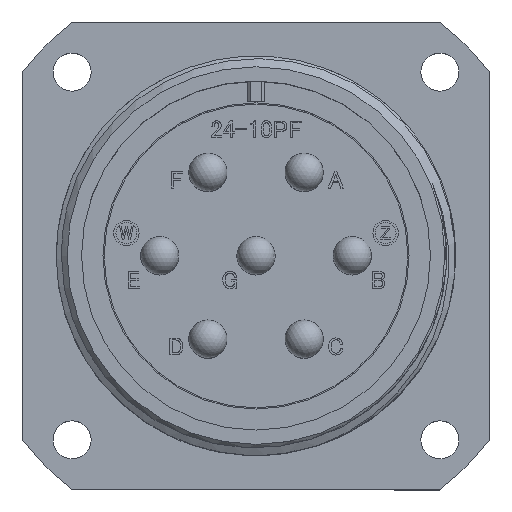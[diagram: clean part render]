
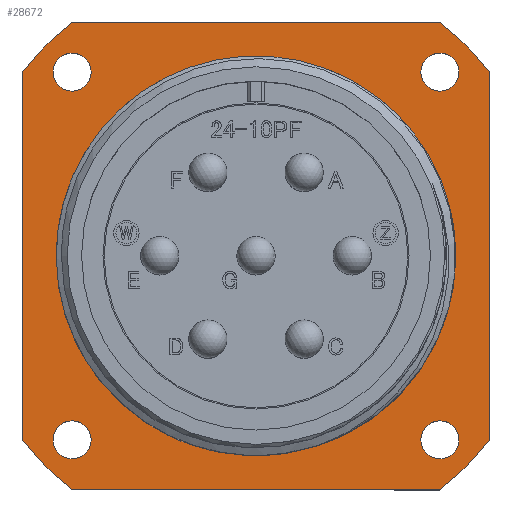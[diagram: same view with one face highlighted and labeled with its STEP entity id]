
A CAD part, top view. The second image highlights one B-rep face of the part: STEP entity #28672.
In plain terms, the highlighted planar face has unit normal (0, 0, 1).
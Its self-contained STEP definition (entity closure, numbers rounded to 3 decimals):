
#501 = AXIS2_PLACEMENT_3D ( 'NONE', #4973, #22908, #18802 ) ;
#945 = AXIS2_PLACEMENT_3D ( 'NONE', #14936, #10494, #1217 ) ;
#1217 = DIRECTION ( 'NONE',  ( 1., 0., 0. ) ) ;
#1477 = EDGE_LOOP ( 'NONE', ( #2790 ) ) ;
#1838 = CARTESIAN_POINT ( 'NONE',  ( 22.225, 22.225, -20.8 ) ) ;
#1998 = CARTESIAN_POINT ( 'NONE',  ( 0., 0., -20.8 ) ) ;
#2098 = CARTESIAN_POINT ( 'NONE',  ( 22.225, -17.439, -20.8 ) ) ;
#2406 = FACE_BOUND ( 'NONE', #27604, .T. ) ;
#2470 = AXIS2_PLACEMENT_3D ( 'NONE', #12964, #15224, #26199 ) ;
#2492 = CARTESIAN_POINT ( 'NONE',  ( 0., 0., -20.8 ) ) ;
#2790 = ORIENTED_EDGE ( 'NONE', *, *, #5545, .F. ) ;
#3105 = VERTEX_POINT ( 'NONE', #21657 ) ;
#3278 = ORIENTED_EDGE ( 'NONE', *, *, #22519, .F. ) ;
#3296 = CARTESIAN_POINT ( 'NONE',  ( 17.465, 17.465, -20.8 ) ) ;
#3869 = DIRECTION ( 'NONE',  ( 1., 0., 0. ) ) ;
#4258 = ORIENTED_EDGE ( 'NONE', *, *, #12403, .F. ) ;
#4461 = ORIENTED_EDGE ( 'NONE', *, *, #25772, .T. ) ;
#4508 = CIRCLE ( 'NONE', #501, 28.25 ) ;
#4973 = CARTESIAN_POINT ( 'NONE',  ( 0., 0., -20.8 ) ) ;
#5545 = EDGE_CURVE ( 'NONE', #28197, #28197, #13267, .T. ) ;
#5886 = CARTESIAN_POINT ( 'NONE',  ( 18.975, 0., -20.8 ) ) ;
#5981 = CIRCLE ( 'NONE', #945, 28.25 ) ;
#6036 = CIRCLE ( 'NONE', #21150, 1.805 ) ;
#6108 = CARTESIAN_POINT ( 'NONE',  ( 0., 0., -20.8 ) ) ;
#6411 = EDGE_LOOP ( 'NONE', ( #18152 ) ) ;
#6519 = AXIS2_PLACEMENT_3D ( 'NONE', #8699, #10878, #3869 ) ;
#6762 = DIRECTION ( 'NONE',  ( 0., 0., 1. ) ) ;
#6818 = VERTEX_POINT ( 'NONE', #11388 ) ;
#6912 = CARTESIAN_POINT ( 'NONE',  ( -17.439, -22.225, -20.8 ) ) ;
#6953 = DIRECTION ( 'NONE',  ( 1., 0., 0. ) ) ;
#7020 = EDGE_CURVE ( 'NONE', #14397, #14397, #21676, .T. ) ;
#7049 = DIRECTION ( 'NONE',  ( 1., 0., 0. ) ) ;
#7344 = DIRECTION ( 'NONE',  ( 0., 0., 1. ) ) ;
#7384 = FACE_OUTER_BOUND ( 'NONE', #28707, .T. ) ;
#7686 = AXIS2_PLACEMENT_3D ( 'NONE', #21227, #23488, #24090 ) ;
#7860 = CARTESIAN_POINT ( 'NONE',  ( 19.27, 17.465, -20.8 ) ) ;
#8086 = AXIS2_PLACEMENT_3D ( 'NONE', #2492, #7344, #7049 ) ;
#8091 = EDGE_CURVE ( 'NONE', #17479, #23479, #9301, .T. ) ;
#8213 = VECTOR ( 'NONE', #8643, 1000. ) ;
#8259 = AXIS2_PLACEMENT_3D ( 'NONE', #1998, #10899, #15524 ) ;
#8643 = DIRECTION ( 'NONE',  ( 0., 1., 0. ) ) ;
#8662 = CARTESIAN_POINT ( 'NONE',  ( -22.225, 22.225, -20.8 ) ) ;
#8699 = CARTESIAN_POINT ( 'NONE',  ( -17.465, -17.465, -20.8 ) ) ;
#9301 = LINE ( 'NONE', #8662, #10737 ) ;
#9821 = CARTESIAN_POINT ( 'NONE',  ( -22.225, -17.439, -20.8 ) ) ;
#9872 = LINE ( 'NONE', #9978, #15172 ) ;
#9978 = CARTESIAN_POINT ( 'NONE',  ( -22.225, 22.225, -20.8 ) ) ;
#10493 = CIRCLE ( 'NONE', #8086, 18.975 ) ;
#10494 = DIRECTION ( 'NONE',  ( 0., 0., -1. ) ) ;
#10539 = PLANE ( 'NONE',  #25272 ) ;
#10712 = AXIS2_PLACEMENT_3D ( 'NONE', #3296, #23817, #25915 ) ;
#10737 = VECTOR ( 'NONE', #26455, 1000. ) ;
#10878 = DIRECTION ( 'NONE',  ( 0., 0., 1. ) ) ;
#10899 = DIRECTION ( 'NONE',  ( 0., 0., -1. ) ) ;
#11008 = ORIENTED_EDGE ( 'NONE', *, *, #27703, .T. ) ;
#11052 = EDGE_CURVE ( 'NONE', #21656, #19423, #14495, .T. ) ;
#11388 = CARTESIAN_POINT ( 'NONE',  ( 22.225, 17.439, -20.8 ) ) ;
#11690 = VERTEX_POINT ( 'NONE', #9821 ) ;
#12157 = CIRCLE ( 'NONE', #2470, 28.25 ) ;
#12403 = EDGE_CURVE ( 'NONE', #26153, #19423, #5981, .T. ) ;
#12580 = EDGE_LOOP ( 'NONE', ( #3278 ) ) ;
#12964 = CARTESIAN_POINT ( 'NONE',  ( 0., 0., -20.8 ) ) ;
#13267 = CIRCLE ( 'NONE', #6519, 1.805 ) ;
#13283 = DIRECTION ( 'NONE',  ( 0., 0., 1. ) ) ;
#13448 = ORIENTED_EDGE ( 'NONE', *, *, #11052, .T. ) ;
#14397 = VERTEX_POINT ( 'NONE', #7860 ) ;
#14421 = FACE_BOUND ( 'NONE', #6411, .T. ) ;
#14495 = LINE ( 'NONE', #22182, #15206 ) ;
#14936 = CARTESIAN_POINT ( 'NONE',  ( 0., 0., -20.8 ) ) ;
#15172 = VECTOR ( 'NONE', #25375, 1000. ) ;
#15206 = VECTOR ( 'NONE', #24659, 1000. ) ;
#15224 = DIRECTION ( 'NONE',  ( 0., 0., -1. ) ) ;
#15241 = EDGE_CURVE ( 'NONE', #17479, #6818, #12157, .T. ) ;
#15524 = DIRECTION ( 'NONE',  ( 1., 0., 0. ) ) ;
#15638 = CARTESIAN_POINT ( 'NONE',  ( 17.439, -22.225, -20.8 ) ) ;
#15680 = ORIENTED_EDGE ( 'NONE', *, *, #28996, .F. ) ;
#15993 = VERTEX_POINT ( 'NONE', #25133 ) ;
#16148 = VERTEX_POINT ( 'NONE', #19393 ) ;
#16546 = FACE_BOUND ( 'NONE', #1477, .T. ) ;
#16876 = VERTEX_POINT ( 'NONE', #5886 ) ;
#17479 = VERTEX_POINT ( 'NONE', #19633 ) ;
#18152 = ORIENTED_EDGE ( 'NONE', *, *, #7020, .F. ) ;
#18322 = CIRCLE ( 'NONE', #8259, 28.25 ) ;
#18371 = ORIENTED_EDGE ( 'NONE', *, *, #20899, .F. ) ;
#18802 = DIRECTION ( 'NONE',  ( 1., 0., 0. ) ) ;
#19393 = CARTESIAN_POINT ( 'NONE',  ( 19.27, -17.465, -20.8 ) ) ;
#19423 = VERTEX_POINT ( 'NONE', #15638 ) ;
#19583 = ORIENTED_EDGE ( 'NONE', *, *, #15241, .F. ) ;
#19633 = CARTESIAN_POINT ( 'NONE',  ( 17.439, 22.225, -20.8 ) ) ;
#20451 = CARTESIAN_POINT ( 'NONE',  ( -17.465, 17.465, -20.8 ) ) ;
#20782 = FACE_BOUND ( 'NONE', #24338, .T. ) ;
#20899 = EDGE_CURVE ( 'NONE', #15993, #23479, #18322, .T. ) ;
#21150 = AXIS2_PLACEMENT_3D ( 'NONE', #20451, #6762, #6953 ) ;
#21227 = CARTESIAN_POINT ( 'NONE',  ( 17.465, -17.465, -20.8 ) ) ;
#21239 = LINE ( 'NONE', #1838, #8213 ) ;
#21273 = EDGE_CURVE ( 'NONE', #16148, #16148, #28233, .T. ) ;
#21656 = VERTEX_POINT ( 'NONE', #6912 ) ;
#21657 = CARTESIAN_POINT ( 'NONE',  ( -15.66, 17.465, -20.8 ) ) ;
#21676 = CIRCLE ( 'NONE', #10712, 1.805 ) ;
#22182 = CARTESIAN_POINT ( 'NONE',  ( -22.225, -22.225, -20.8 ) ) ;
#22242 = DIRECTION ( 'NONE',  ( 1., 0., 0. ) ) ;
#22519 = EDGE_CURVE ( 'NONE', #16876, #16876, #10493, .T. ) ;
#22908 = DIRECTION ( 'NONE',  ( 0., 0., -1. ) ) ;
#23313 = CARTESIAN_POINT ( 'NONE',  ( -15.66, -17.465, -20.8 ) ) ;
#23479 = VERTEX_POINT ( 'NONE', #28363 ) ;
#23488 = DIRECTION ( 'NONE',  ( 0., 0., 1. ) ) ;
#23817 = DIRECTION ( 'NONE',  ( 0., 0., 1. ) ) ;
#24090 = DIRECTION ( 'NONE',  ( 1., 0., 0. ) ) ;
#24338 = EDGE_LOOP ( 'NONE', ( #25712 ) ) ;
#24659 = DIRECTION ( 'NONE',  ( 1., 0., 0. ) ) ;
#24667 = FACE_BOUND ( 'NONE', #12580, .T. ) ;
#25133 = CARTESIAN_POINT ( 'NONE',  ( -22.225, 17.439, -20.8 ) ) ;
#25272 = AXIS2_PLACEMENT_3D ( 'NONE', #6108, #13283, #22242 ) ;
#25375 = DIRECTION ( 'NONE',  ( 0., -1., 0. ) ) ;
#25712 = ORIENTED_EDGE ( 'NONE', *, *, #21273, .F. ) ;
#25772 = EDGE_CURVE ( 'NONE', #26153, #6818, #21239, .T. ) ;
#25915 = DIRECTION ( 'NONE',  ( 1., 0., 0. ) ) ;
#26153 = VERTEX_POINT ( 'NONE', #2098 ) ;
#26199 = DIRECTION ( 'NONE',  ( 1., 0., 0. ) ) ;
#26455 = DIRECTION ( 'NONE',  ( -1., 0., 0. ) ) ;
#26894 = ORIENTED_EDGE ( 'NONE', *, *, #8091, .T. ) ;
#27001 = EDGE_CURVE ( 'NONE', #3105, #3105, #6036, .T. ) ;
#27461 = ORIENTED_EDGE ( 'NONE', *, *, #27001, .F. ) ;
#27604 = EDGE_LOOP ( 'NONE', ( #27461 ) ) ;
#27703 = EDGE_CURVE ( 'NONE', #15993, #11690, #9872, .T. ) ;
#28197 = VERTEX_POINT ( 'NONE', #23313 ) ;
#28233 = CIRCLE ( 'NONE', #7686, 1.805 ) ;
#28363 = CARTESIAN_POINT ( 'NONE',  ( -17.439, 22.225, -20.8 ) ) ;
#28672 = ADVANCED_FACE ( 'NONE', ( #2406, #14421, #20782, #16546, #7384, #24667 ), #10539, .T. ) ;
#28707 = EDGE_LOOP ( 'NONE', ( #19583, #26894, #18371, #11008, #15680, #13448, #4258, #4461 ) ) ;
#28996 = EDGE_CURVE ( 'NONE', #21656, #11690, #4508, .T. ) ;
